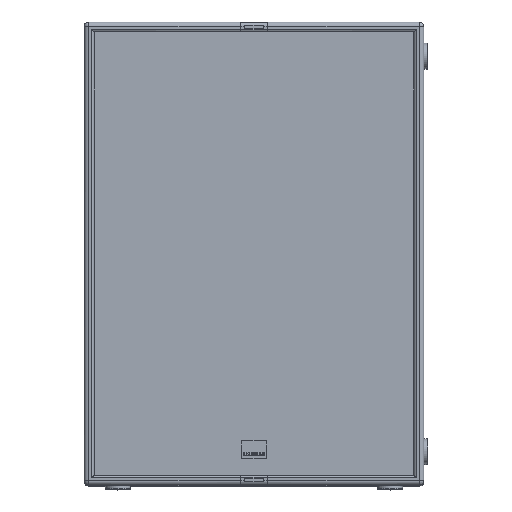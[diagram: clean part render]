
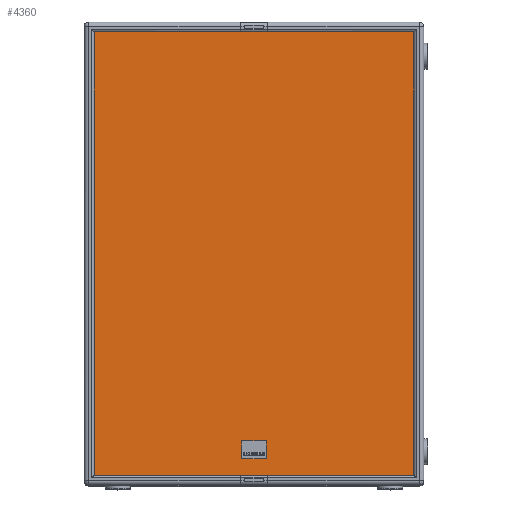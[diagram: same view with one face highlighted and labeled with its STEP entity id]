
A CAD part, top view. The second image highlights one B-rep face of the part: STEP entity #4360.
In plain terms, the highlighted planar face has unit normal (0, 0, 1) as drawn and (0, -1, 0) by its records, which use the part's own axes.
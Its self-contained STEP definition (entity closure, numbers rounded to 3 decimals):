
#4335 = ORIENTED_EDGE ( 'NONE', *, *, #4336, .F. ) ;
#4336 = EDGE_CURVE ( 'NONE', #4337, #4831, #16130, .T. ) ;
#4337 = VERTEX_POINT ( 'NONE', #16126 ) ;
#4338 = ORIENTED_EDGE ( 'NONE', *, *, #4339, .T. ) ;
#4339 = EDGE_CURVE ( 'NONE', #4337, #4340, #16125, .T. ) ;
#4340 = VERTEX_POINT ( 'NONE', #16183 ) ;
#4341 = ORIENTED_EDGE ( 'NONE', *, *, #4342, .F. ) ;
#4342 = EDGE_CURVE ( 'NONE', #7224, #4340, #16182, .T. ) ;
#4360 = ADVANCED_FACE ( 'NONE', ( #16166 ), #16165, .T. ) ;
#4361 = EDGE_LOOP ( 'NONE', ( #4362, #4335, #4338, #4341 ) ) ;
#4362 = ORIENTED_EDGE ( 'NONE', *, *, #4363, .F. ) ;
#4363 = EDGE_CURVE ( 'NONE', #4831, #7224, #16160, .T. ) ;
#4831 = VERTEX_POINT ( 'NONE', #17337 ) ;
#7224 = VERTEX_POINT ( 'NONE', #22533 ) ;
#16123 = DIRECTION ( 'NONE',  ( -1., 0., 0. ) ) ;
#16124 = CARTESIAN_POINT ( 'NONE',  ( 21., 4., 668. ) ) ;
#16125 = LINE ( 'NONE', #16124, #16184 ) ;
#16126 = CARTESIAN_POINT ( 'NONE',  ( 503., 4., 668. ) ) ;
#16127 = DIRECTION ( 'NONE',  ( 0., 0., -1. ) ) ;
#16128 = VECTOR ( 'NONE', #16127, 1000. ) ;
#16129 = CARTESIAN_POINT ( 'NONE',  ( 503., 4., 0. ) ) ;
#16130 = LINE ( 'NONE', #16129, #16128 ) ;
#16157 = DIRECTION ( 'NONE',  ( -1., 0., 0. ) ) ;
#16158 = VECTOR ( 'NONE', #16157, 1000. ) ;
#16159 = CARTESIAN_POINT ( 'NONE',  ( 262., 4., 0. ) ) ;
#16160 = LINE ( 'NONE', #16159, #16158 ) ;
#16161 = DIRECTION ( 'NONE',  ( 0., 0., -1. ) ) ;
#16162 = DIRECTION ( 'NONE',  ( 0., -1., 0. ) ) ;
#16163 = CARTESIAN_POINT ( 'NONE',  ( 503., 4., 0. ) ) ;
#16164 = AXIS2_PLACEMENT_3D ( 'NONE', #16163, #16162, #16161 ) ;
#16165 = PLANE ( 'NONE',  #16164 ) ;
#16166 = FACE_OUTER_BOUND ( 'NONE', #4361, .T. ) ;
#16179 = DIRECTION ( 'NONE',  ( 0., 0., 1. ) ) ;
#16180 = VECTOR ( 'NONE', #16179, 1000. ) ;
#16181 = CARTESIAN_POINT ( 'NONE',  ( 21., 4., 0. ) ) ;
#16182 = LINE ( 'NONE', #16181, #16180 ) ;
#16183 = CARTESIAN_POINT ( 'NONE',  ( 21., 4., 668. ) ) ;
#16184 = VECTOR ( 'NONE', #16123, 1000. ) ;
#17337 = CARTESIAN_POINT ( 'NONE',  ( 503., 4., 0. ) ) ;
#22533 = CARTESIAN_POINT ( 'NONE',  ( 21., 4., 0. ) ) ;
